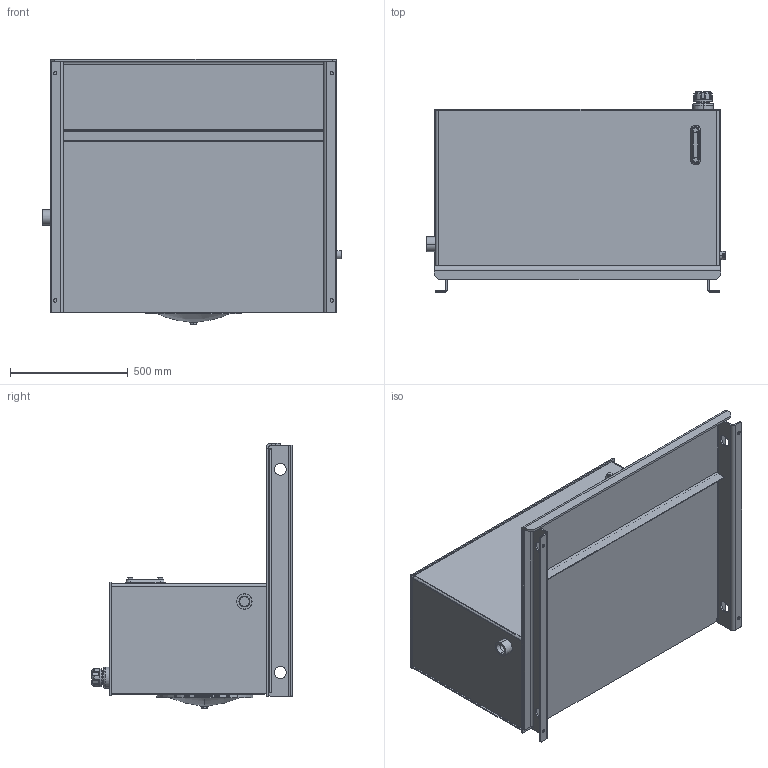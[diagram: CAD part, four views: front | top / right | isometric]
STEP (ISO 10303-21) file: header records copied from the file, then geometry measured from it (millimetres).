
FILE_DESCRIPTION (( 'STEP AP203' ), '1' );
FILE_NAME ('RLC080-FT.STEP', '2015-01-07T16:53:31', ( '' ), ( '' ), 'SwSTEP 2.0', 'SolidWorks 2014', '' );
FILE_SCHEMA (( 'CONFIG_CONTROL_DESIGN' ));
Length unit declared in the file: inch
Products named in the file (1): RLC080-FT
Bounding box: 1270 x 851.79 x 1129.43 mm (x, y, z)
Volume: 31216860.3 mm3; surface area: 10270102.2 mm2
Topology: 20 solids, 20 shells, 685 faces, 1607 edges, 961 vertices
Faces by surface type: cylinder 238, plane 236, cone 86, torus 51, bspline 46, sphere 28
Entity records: 21814 total; most frequent: CARTESIAN_POINT 5916, DIRECTION 3469, ORIENTED_EDGE 3190, EDGE_CURVE 1595, AXIS2_PLACEMENT_3D 1366, VERTEX_POINT 961, EDGE_LOOP 774, VECTOR 737
